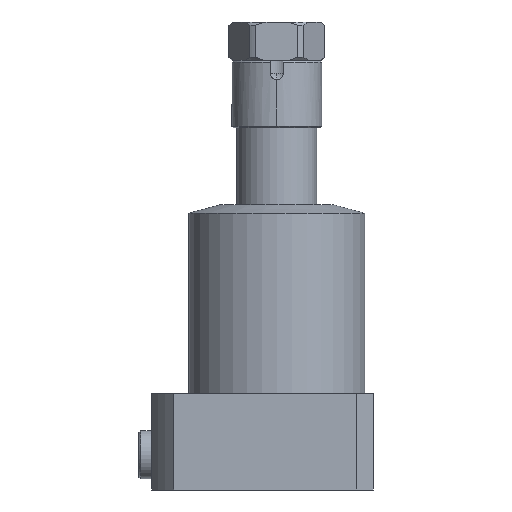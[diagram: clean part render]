
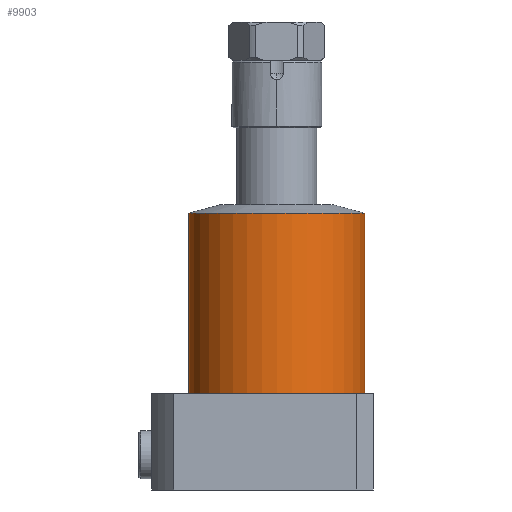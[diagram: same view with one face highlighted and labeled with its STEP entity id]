
A CAD part, front view. The second image highlights one B-rep face of the part: STEP entity #9903.
In plain terms, the highlighted cylindrical face has radius 27.5 mm (diameter 55 mm), a partial arc.
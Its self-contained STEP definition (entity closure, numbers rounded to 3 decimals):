
#1855 = EDGE_CURVE ( 'NONE', #5200, #2858, #7989, .T. ) ;
#2178 = ORIENTED_EDGE ( 'NONE', *, *, #2260, .F. ) ;
#2260 = EDGE_CURVE ( 'NONE', #2858, #9649, #8187, .T. ) ;
#2858 = VERTEX_POINT ( 'NONE', #14285 ) ;
#3569 = CARTESIAN_POINT ( 'NONE',  ( 27.5, 0., 89. ) ) ;
#3779 = EDGE_CURVE ( 'NONE', #9649, #6780, #13079, .T. ) ;
#4302 = DIRECTION ( 'NONE',  ( 0., 0., -1. ) ) ;
#4547 = VECTOR ( 'NONE', #14606, 1000. ) ;
#5200 = VERTEX_POINT ( 'NONE', #16016 ) ;
#5680 = ORIENTED_EDGE ( 'NONE', *, *, #3779, .F. ) ;
#5718 = CYLINDRICAL_SURFACE ( 'NONE', #16622, 27.5 ) ;
#6253 = VECTOR ( 'NONE', #4302, 1000. ) ;
#6614 = AXIS2_PLACEMENT_3D ( 'NONE', #15314, #6988, #16769 ) ;
#6780 = VERTEX_POINT ( 'NONE', #12385 ) ;
#6988 = DIRECTION ( 'NONE',  ( 0., 0., -1. ) ) ;
#7049 = AXIS2_PLACEMENT_3D ( 'NONE', #15793, #7459, #17239 ) ;
#7459 = DIRECTION ( 'NONE',  ( 0., 0., 1. ) ) ;
#7989 = CIRCLE ( 'NONE', #7049, 27.5 ) ;
#8187 = LINE ( 'NONE', #3569, #4547 ) ;
#9063 = ORIENTED_EDGE ( 'NONE', *, *, #1855, .F. ) ;
#9649 = VERTEX_POINT ( 'NONE', #12040 ) ;
#9903 = ADVANCED_FACE ( 'NONE', ( #17731 ), #5718, .T. ) ;
#10855 = DIRECTION ( 'NONE',  ( -1., 0., 0. ) ) ;
#11881 = ORIENTED_EDGE ( 'NONE', *, *, #17586, .T. ) ;
#12040 = CARTESIAN_POINT ( 'NONE',  ( 27.5, 0., 30. ) ) ;
#12243 = CARTESIAN_POINT ( 'NONE',  ( 0., 0., 89. ) ) ;
#12385 = CARTESIAN_POINT ( 'NONE',  ( -27.5, 0., 30. ) ) ;
#12716 = CARTESIAN_POINT ( 'NONE',  ( -27.5, 0., 89. ) ) ;
#13079 = CIRCLE ( 'NONE', #6614, 27.5 ) ;
#13651 = DIRECTION ( 'NONE',  ( 0., 0., -1. ) ) ;
#14285 = CARTESIAN_POINT ( 'NONE',  ( 27.5, 0., 86.321 ) ) ;
#14326 = EDGE_LOOP ( 'NONE', ( #2178, #9063, #11881, #5680 ) ) ;
#14606 = DIRECTION ( 'NONE',  ( 0., 0., -1. ) ) ;
#15314 = CARTESIAN_POINT ( 'NONE',  ( 0., 0., 30. ) ) ;
#15793 = CARTESIAN_POINT ( 'NONE',  ( 0., 0., 86.321 ) ) ;
#16016 = CARTESIAN_POINT ( 'NONE',  ( -27.5, 0., 86.321 ) ) ;
#16622 = AXIS2_PLACEMENT_3D ( 'NONE', #12243, #13651, #10855 ) ;
#16769 = DIRECTION ( 'NONE',  ( -1., 0., 0. ) ) ;
#17239 = DIRECTION ( 'NONE',  ( -1., 0., 0. ) ) ;
#17400 = LINE ( 'NONE', #12716, #6253 ) ;
#17586 = EDGE_CURVE ( 'NONE', #5200, #6780, #17400, .T. ) ;
#17731 = FACE_OUTER_BOUND ( 'NONE', #14326, .T. ) ;
